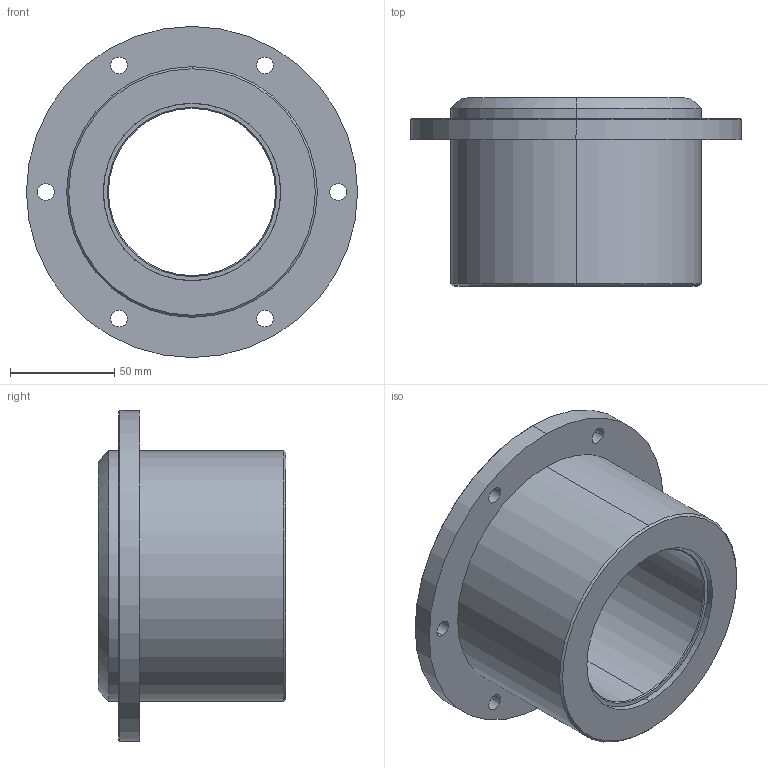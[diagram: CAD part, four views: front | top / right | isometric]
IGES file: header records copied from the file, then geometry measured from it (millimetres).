
Start section: 3D InterOp IGES (Version 20 0 1), Spatial Corp. Copyright (c) 1999-2007.
Global section: file name: 10.13.08.igs; native system: Spatial Corp.; preprocessor: 3D InterOp GENERIC/IGES 3.0; author: Noname; organization: Noname; date: 20111110.165057; units: metre
Bounding box: 158.5 x 90 x 158.5 mm (x, y, z)
Surface area: 133835.6 mm2 (no closed solid volume)
Topology: 0 solids, 0 shells, 72 faces, 1152 edges, 1938 vertices
Faces by surface type: revolution 61, extrusion 11
